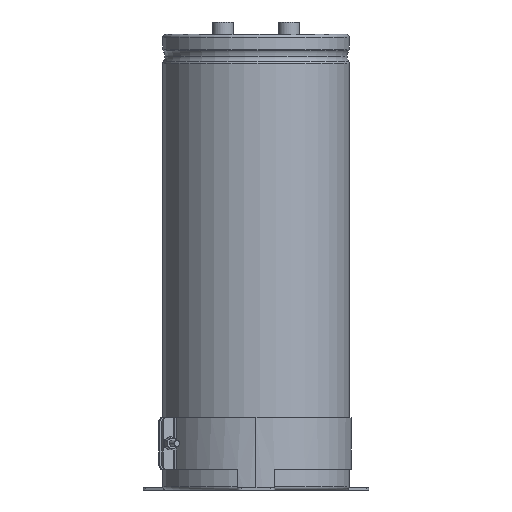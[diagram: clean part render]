
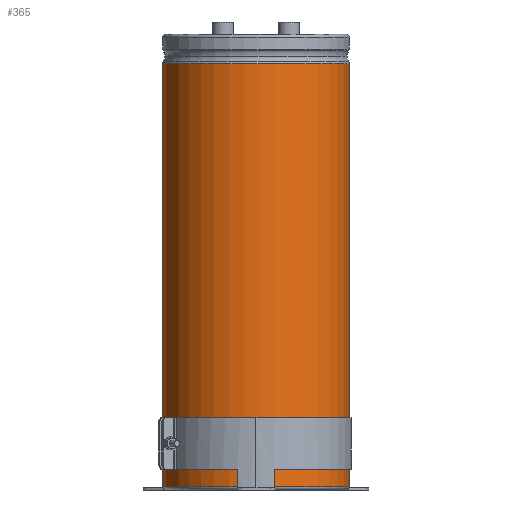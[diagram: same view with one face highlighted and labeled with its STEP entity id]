
A CAD part, left-side view. The second image highlights one B-rep face of the part: STEP entity #365.
In plain terms, the highlighted cylindrical face has radius 45 mm (diameter 90 mm), a partial arc.
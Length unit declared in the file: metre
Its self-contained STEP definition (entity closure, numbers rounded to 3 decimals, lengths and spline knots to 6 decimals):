
#365=ADVANCED_FACE('0:237',(#597),#598,.T.);
#597=FACE_OUTER_BOUND('',#1082,.T.);
#598=CYLINDRICAL_SURFACE('',#1083,0.045);
#1082=EDGE_LOOP('',(#2038,#2039,#2040,#2041));
#1083=AXIS2_PLACEMENT_3D('',#2042,#2043,#2044);
#2038=ORIENTED_EDGE('',*,*,#2995,.T.);
#2039=ORIENTED_EDGE('',*,*,#3004,.T.);
#2040=ORIENTED_EDGE('',*,*,#3006,.T.);
#2041=ORIENTED_EDGE('',*,*,#3007,.F.);
#2042=CARTESIAN_POINT('',(0.0,0.0,0.0));
#2043=DIRECTION('',(-0.0,0.0,1.0));
#2044=DIRECTION('',(0.0,1.0,0.0));
#2995=EDGE_CURVE('',#5626,#5634,#5635,.T.);
#3004=EDGE_CURVE('0:309',#5634,#5645,#5647,.T.);
#3006=EDGE_CURVE('0:312',#5645,#5649,#5650,.T.);
#3007=EDGE_CURVE('0:315',#5626,#5649,#5651,.T.);
#5626=VERTEX_POINT('',#6662);
#5634=VERTEX_POINT('',#6670);
#5635=LINE('',#6671,#6672);
#5645=VERTEX_POINT('',#6683);
#5647=CIRCLE('',#6685,0.045);
#5649=VERTEX_POINT('',#6687);
#5650=LINE('',#6688,#6689);
#5651=CIRCLE('',#6690,0.045);
#6662=CARTESIAN_POINT('',(0.,-0.045,0.0015));
#6670=CARTESIAN_POINT('',(0.,-0.045,0.2059));
#6671=CARTESIAN_POINT('',(0.,-0.045,0.1037));
#6672=VECTOR('',#8209,1.0);
#6683=CARTESIAN_POINT('',(-0.004,0.044822,0.2059));
#6685=AXIS2_PLACEMENT_3D('',#8226,#8227,#8228);
#6687=CARTESIAN_POINT('',(-0.004,0.044822,0.0015));
#6688=CARTESIAN_POINT('',(-0.004,0.044822,0.2059));
#6689=VECTOR('',#8229,0.001);
#6690=AXIS2_PLACEMENT_3D('',#8230,#8231,#8232);
#8209=DIRECTION('',(0.0,0.0,1.0));
#8226=CARTESIAN_POINT('',(0.0,0.0,0.2059));
#8227=DIRECTION('',(0.0,0.0,-1.0));
#8228=DIRECTION('',(0.0,1.0,0.0));
#8229=DIRECTION('',(0.0,0.0,-1.0));
#8230=CARTESIAN_POINT('',(0.0,0.0,0.0015));
#8231=DIRECTION('',(0.0,0.0,-1.0));
#8232=DIRECTION('',(0.0,1.0,0.0));
